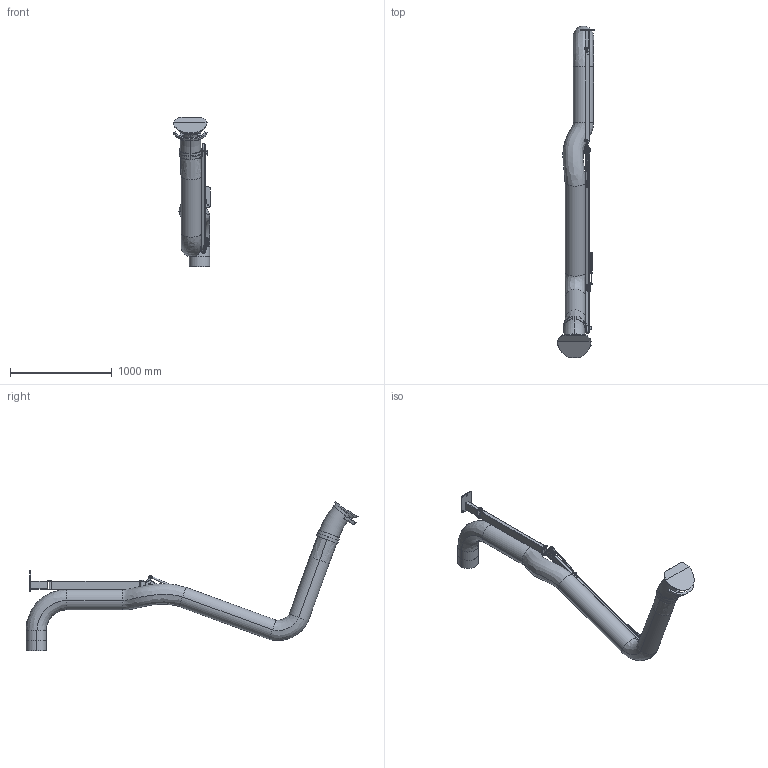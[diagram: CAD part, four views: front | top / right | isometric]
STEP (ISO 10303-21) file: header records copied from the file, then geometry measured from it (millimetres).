
FILE_DESCRIPTION((''),'2;1');
FILE_NAME('PR4000-200','2018-10-01T',('Gustav Stenberg'),(''),'CREO PARAMETRIC BY PTC INC, 2016130','CREO PARAMETRIC BY PTC INC, 2016130','');
FILE_SCHEMA(('AUTOMOTIVE_DESIGN { 1 0 10303 214 1 1 1 1 }'));
Length unit declared in the file: millimetre
Products named in the file (49): 100-6303-02; 100-6301-02; 100-6305-2; 100-6300-03; 100-6303; 100-6300-01; 100-6300-02; 100-6300-04; 100-6300; 100062; 102683; 100-5506_L_LIGHT; 100-5506_R_LIGHT; 100-5506; 100-5404-L_LIGHT; 100-5404-R_LIGHT; 100-5404; 100-5914; 100-5913; 100-5915; 135085; 102679; 100-5512-L_LIGHT; 100-512-R_LIGHT; 100-5512; 122219; 102715; 100-5911; 100-5518; 100-6305-1; 100-6305; 134112; 100-5721_LIGHT; 100-5824B_LIGHT; 100-5862A_LIGHT; 100-5865A_LIGHT; 126057_AF1; 100-6341-200; 135584; STAB_K4-D4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
Assembly tree (53 placements, depth 5):
  PR4000-200
    100062
      100-6303
        100-6303-02
        100-6301-02
        100-6305-2
        100-6300-03
      100-6300
        100-6300-01
        100-6300-02
        100-6300-04
    134112
      135085
        102683
        100-5506
          100-5506_L_LIGHT
          100-5506_R_LIGHT
        100-5404
          100-5404-L_LIGHT
          100-5404-R_LIGHT
        100-5915  x2
          100-5914
          100-5913
      122219
        102679
        100-5512
          100-5512-L_LIGHT
          100-512-R_LIGHT
      100-5518
        102715
        100-5911
      100-6305
        100-6305-2
        100-6305-1
        100-5911
    100-5721_LIGHT
    100-6341-200
      100-5824B_LIGHT
      100-5862A_LIGHT
      100-5865A_LIGHT
      126057_AF1
    130368
      135584
      STAB_K4-D4
    102118-REF
    130371
      135588
      STAB_K4-D4
    102845-REF
      GAS_SPRING_ROD_STABILUS
      STAB_K4-D4
    135115
    100-5835
Bounding box: 362.02 x 3261.68 x 1466.4 mm (x, y, z)
Volume: 13728331.8 mm3; surface area: 6790167.7 mm2
Topology: 39 solids, 40 shells, 1001 faces, 2425 edges, 1501 vertices
Faces by surface type: plane 337, cylinder 337, cone 128, bspline 94, torus 75, sphere 26, extrusion 4
Entity records: 50998 total; most frequent: CARTESIAN_POINT 13333, DIRECTION 4523, ORIENTED_EDGE 4252, EDGE_CURVE 2126, PROPERTY_DEFINITION 2013, REPRESENTATION 1981, PROPERTY_DEFINITION_REPRESENTATION 1981, AXIS2_PLACEMENT_3D 1797
